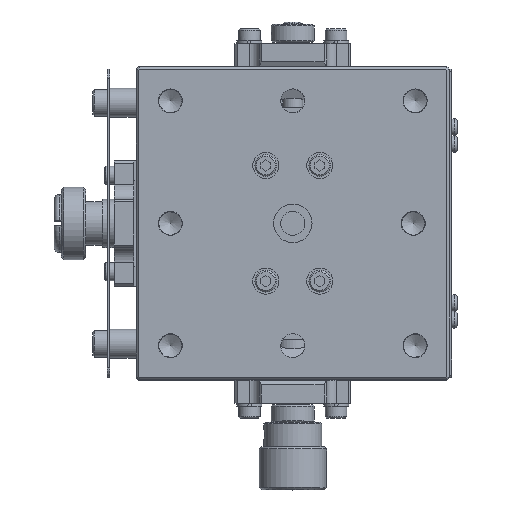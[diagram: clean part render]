
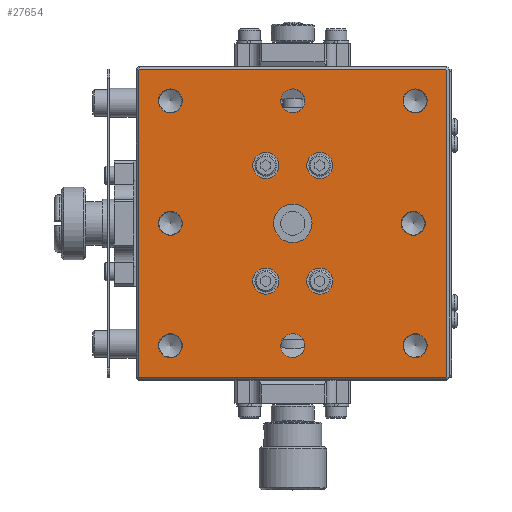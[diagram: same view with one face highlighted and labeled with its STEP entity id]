
A CAD part, top view. The second image highlights one B-rep face of the part: STEP entity #27654.
In plain terms, the highlighted planar face has unit normal (0, 0, 1).
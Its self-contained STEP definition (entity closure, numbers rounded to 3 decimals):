
#27106=CARTESIAN_POINT('',(-32.0,31.793,-50.0));
#27107=VERTEX_POINT('',#27106);
#27108=CARTESIAN_POINT('',(-31.793,32.0,-50.0));
#27109=VERTEX_POINT('',#27108);
#27110=CARTESIAN_POINT('',(-32.0,31.793,-50.0));
#27111=DIRECTION('',(0.707,0.707,0.0));
#27112=VECTOR('',#27111,0.293);
#27113=LINE('',#27110,#27112);
#27114=EDGE_CURVE('',#27107,#27109,#27113,.T.);
#27146=CARTESIAN_POINT('',(-32.0,-31.793,-50.0));
#27147=VERTEX_POINT('',#27146);
#27148=CARTESIAN_POINT('',(-32.0,-31.793,-50.0));
#27149=DIRECTION('',(0.0,1.0,0.0));
#27150=VECTOR('',#27149,63.586);
#27151=LINE('',#27148,#27150);
#27152=EDGE_CURVE('',#27147,#27107,#27151,.T.);
#27196=CARTESIAN_POINT('',(31.793,32.0,-50.0));
#27197=VERTEX_POINT('',#27196);
#27198=CARTESIAN_POINT('',(-31.793,32.0,-50.0));
#27199=DIRECTION('',(1.0,0.0,0.0));
#27200=VECTOR('',#27199,63.586);
#27201=LINE('',#27198,#27200);
#27202=EDGE_CURVE('',#27109,#27197,#27201,.T.);
#27218=CARTESIAN_POINT('',(31.793,-32.,-50.0));
#27219=VERTEX_POINT('',#27218);
#27220=CARTESIAN_POINT('',(-31.793,-32.0,-50.0));
#27221=VERTEX_POINT('',#27220);
#27222=CARTESIAN_POINT('',(31.793,-32.,-50.0));
#27223=DIRECTION('',(-1.0,0.0,0.0));
#27224=VECTOR('',#27223,63.586);
#27225=LINE('',#27222,#27224);
#27226=EDGE_CURVE('',#27219,#27221,#27225,.T.);
#27256=CARTESIAN_POINT('',(32.0,31.793,-50.0));
#27257=VERTEX_POINT('',#27256);
#27258=CARTESIAN_POINT('',(32.,-31.793,-50.0));
#27259=VERTEX_POINT('',#27258);
#27260=CARTESIAN_POINT('',(32.0,31.793,-50.0));
#27261=DIRECTION('',(0.0,-1.0,0.0));
#27262=VECTOR('',#27261,63.586);
#27263=LINE('',#27260,#27262);
#27264=EDGE_CURVE('',#27257,#27259,#27263,.T.);
#27289=CARTESIAN_POINT('',(32.,-31.793,-50.0));
#27290=DIRECTION('',(-0.707,-0.707,0.0));
#27291=VECTOR('',#27290,0.293);
#27292=LINE('',#27289,#27291);
#27293=EDGE_CURVE('',#27259,#27219,#27292,.T.);
#27311=CARTESIAN_POINT('',(31.793,32.0,-50.0));
#27312=DIRECTION('',(0.707,-0.707,0.0));
#27313=VECTOR('',#27312,0.293);
#27314=LINE('',#27311,#27313);
#27315=EDGE_CURVE('',#27197,#27257,#27314,.T.);
#27328=CARTESIAN_POINT('',(-31.793,-32.0,-50.0));
#27329=DIRECTION('',(-0.707,0.707,0.0));
#27330=VECTOR('',#27329,0.293);
#27331=LINE('',#27328,#27330);
#27332=EDGE_CURVE('',#27221,#27147,#27331,.T.);
#27496=CARTESIAN_POINT('',(32.5,-32.5,-50.0));
#27497=DIRECTION('',(0.0,0.0,-1.0));
#27498=DIRECTION('',(-1.0,0.0,0.0));
#27499=AXIS2_PLACEMENT_3D('',#27496,#27497,#27498);
#27500=PLANE('',#27499);
#27501=ORIENTED_EDGE('',*,*,#27264,.F.);
#27502=ORIENTED_EDGE('',*,*,#27315,.F.);
#27503=ORIENTED_EDGE('',*,*,#27202,.F.);
#27504=ORIENTED_EDGE('',*,*,#27114,.F.);
#27505=ORIENTED_EDGE('',*,*,#27152,.F.);
#27506=ORIENTED_EDGE('',*,*,#27332,.F.);
#27507=ORIENTED_EDGE('',*,*,#27226,.F.);
#27508=ORIENTED_EDGE('',*,*,#27293,.F.);
#27509=EDGE_LOOP('',(#27501,#27502,#27503,#27504,#27505,#27506,#27507,#27508));
#27510=FACE_OUTER_BOUND('',#27509,.T.);
#27511=CARTESIAN_POINT('',(-2.9,-12.,-50.0));
#27512=VERTEX_POINT('',#27511);
#27513=CARTESIAN_POINT('',(-5.6,-12.,-50.0));
#27514=DIRECTION('',(0.0,0.0,-1.0));
#27515=DIRECTION('',(1.0,0.0,0.0));
#27516=AXIS2_PLACEMENT_3D('',#27513,#27514,#27515);
#27517=CIRCLE('',#27516,2.7);
#27518=EDGE_CURVE('',#27512,#27512,#27517,.T.);
#27519=ORIENTED_EDGE('',*,*,#27518,.T.);
#27520=EDGE_LOOP('',(#27519));
#27521=FACE_BOUND('',#27520,.T.);
#27522=CARTESIAN_POINT('',(8.3,-12.,-50.0));
#27523=VERTEX_POINT('',#27522);
#27524=CARTESIAN_POINT('',(5.6,-12.,-50.0));
#27525=DIRECTION('',(0.0,0.0,-1.0));
#27526=DIRECTION('',(1.0,0.0,0.0));
#27527=AXIS2_PLACEMENT_3D('',#27524,#27525,#27526);
#27528=CIRCLE('',#27527,2.7);
#27529=EDGE_CURVE('',#27523,#27523,#27528,.T.);
#27530=ORIENTED_EDGE('',*,*,#27529,.T.);
#27531=EDGE_LOOP('',(#27530));
#27532=FACE_BOUND('',#27531,.T.);
#27533=CARTESIAN_POINT('',(-2.9,12.,-50.0));
#27534=VERTEX_POINT('',#27533);
#27535=CARTESIAN_POINT('',(-5.6,12.,-50.0));
#27536=DIRECTION('',(0.0,0.0,-1.0));
#27537=DIRECTION('',(1.0,0.0,0.0));
#27538=AXIS2_PLACEMENT_3D('',#27535,#27536,#27537);
#27539=CIRCLE('',#27538,2.7);
#27540=EDGE_CURVE('',#27534,#27534,#27539,.T.);
#27541=ORIENTED_EDGE('',*,*,#27540,.T.);
#27542=EDGE_LOOP('',(#27541));
#27543=FACE_BOUND('',#27542,.T.);
#27544=CARTESIAN_POINT('',(8.3,12.,-50.0));
#27545=VERTEX_POINT('',#27544);
#27546=CARTESIAN_POINT('',(5.6,12.,-50.0));
#27547=DIRECTION('',(0.0,0.0,-1.0));
#27548=DIRECTION('',(1.0,0.0,0.0));
#27549=AXIS2_PLACEMENT_3D('',#27546,#27547,#27548);
#27550=CIRCLE('',#27549,2.7);
#27551=EDGE_CURVE('',#27545,#27545,#27550,.T.);
#27552=ORIENTED_EDGE('',*,*,#27551,.T.);
#27553=EDGE_LOOP('',(#27552));
#27554=FACE_BOUND('',#27553,.T.);
#27555=CARTESIAN_POINT('',(-22.911,-25.4,-50.0));
#27556=VERTEX_POINT('',#27555);
#27557=CARTESIAN_POINT('',(-25.4,-25.4,-50.0));
#27558=DIRECTION('',(0.0,0.0,-1.0));
#27559=DIRECTION('',(1.0,0.0,0.0));
#27560=AXIS2_PLACEMENT_3D('',#27557,#27558,#27559);
#27561=CIRCLE('',#27560,2.489);
#27562=EDGE_CURVE('',#27556,#27556,#27561,.T.);
#27563=ORIENTED_EDGE('',*,*,#27562,.T.);
#27564=EDGE_LOOP('',(#27563));
#27565=FACE_BOUND('',#27564,.T.);
#27566=CARTESIAN_POINT('',(27.889,-25.4,-50.0));
#27567=VERTEX_POINT('',#27566);
#27568=CARTESIAN_POINT('',(25.4,-25.4,-50.0));
#27569=DIRECTION('',(0.0,0.0,-1.0));
#27570=DIRECTION('',(1.0,0.0,0.0));
#27571=AXIS2_PLACEMENT_3D('',#27568,#27569,#27570);
#27572=CIRCLE('',#27571,2.489);
#27573=EDGE_CURVE('',#27567,#27567,#27572,.T.);
#27574=ORIENTED_EDGE('',*,*,#27573,.T.);
#27575=EDGE_LOOP('',(#27574));
#27576=FACE_BOUND('',#27575,.T.);
#27577=CARTESIAN_POINT('',(-22.911,25.4,-50.0));
#27578=VERTEX_POINT('',#27577);
#27579=CARTESIAN_POINT('',(-25.4,25.4,-50.0));
#27580=DIRECTION('',(0.0,0.0,-1.0));
#27581=DIRECTION('',(1.0,0.0,0.0));
#27582=AXIS2_PLACEMENT_3D('',#27579,#27580,#27581);
#27583=CIRCLE('',#27582,2.489);
#27584=EDGE_CURVE('',#27578,#27578,#27583,.T.);
#27585=ORIENTED_EDGE('',*,*,#27584,.T.);
#27586=EDGE_LOOP('',(#27585));
#27587=FACE_BOUND('',#27586,.T.);
#27588=CARTESIAN_POINT('',(27.889,25.4,-50.0));
#27589=VERTEX_POINT('',#27588);
#27590=CARTESIAN_POINT('',(25.4,25.4,-50.0));
#27591=DIRECTION('',(0.0,0.0,-1.0));
#27592=DIRECTION('',(1.0,0.0,0.0));
#27593=AXIS2_PLACEMENT_3D('',#27590,#27591,#27592);
#27594=CIRCLE('',#27593,2.489);
#27595=EDGE_CURVE('',#27589,#27589,#27594,.T.);
#27596=ORIENTED_EDGE('',*,*,#27595,.T.);
#27597=EDGE_LOOP('',(#27596));
#27598=FACE_BOUND('',#27597,.T.);
#27599=CARTESIAN_POINT('',(-22.911,0.,-50.0));
#27600=VERTEX_POINT('',#27599);
#27601=CARTESIAN_POINT('',(-25.4,0.,-50.0));
#27602=DIRECTION('',(0.0,0.0,-1.0));
#27603=DIRECTION('',(1.0,0.0,0.0));
#27604=AXIS2_PLACEMENT_3D('',#27601,#27602,#27603);
#27605=CIRCLE('',#27604,2.489);
#27606=EDGE_CURVE('',#27600,#27600,#27605,.T.);
#27607=ORIENTED_EDGE('',*,*,#27606,.T.);
#27608=EDGE_LOOP('',(#27607));
#27609=FACE_BOUND('',#27608,.T.);
#27610=CARTESIAN_POINT('',(27.489,0.,-50.0));
#27611=VERTEX_POINT('',#27610);
#27612=CARTESIAN_POINT('',(25.,0.,-50.0));
#27613=DIRECTION('',(0.0,0.0,-1.0));
#27614=DIRECTION('',(1.0,0.0,0.0));
#27615=AXIS2_PLACEMENT_3D('',#27612,#27613,#27614);
#27616=CIRCLE('',#27615,2.489);
#27617=EDGE_CURVE('',#27611,#27611,#27616,.T.);
#27618=ORIENTED_EDGE('',*,*,#27617,.T.);
#27619=EDGE_LOOP('',(#27618));
#27620=FACE_BOUND('',#27619,.T.);
#27621=CARTESIAN_POINT('',(2.489,-25.4,-50.0));
#27622=VERTEX_POINT('',#27621);
#27623=CARTESIAN_POINT('',(0.0,-25.4,-50.0));
#27624=DIRECTION('',(0.0,0.0,-1.0));
#27625=DIRECTION('',(1.0,0.0,0.0));
#27626=AXIS2_PLACEMENT_3D('',#27623,#27624,#27625);
#27627=CIRCLE('',#27626,2.489);
#27628=EDGE_CURVE('',#27622,#27622,#27627,.T.);
#27629=ORIENTED_EDGE('',*,*,#27628,.T.);
#27630=EDGE_LOOP('',(#27629));
#27631=FACE_BOUND('',#27630,.T.);
#27632=CARTESIAN_POINT('',(2.489,25.4,-50.0));
#27633=VERTEX_POINT('',#27632);
#27634=CARTESIAN_POINT('',(0.0,25.4,-50.0));
#27635=DIRECTION('',(0.0,0.0,-1.0));
#27636=DIRECTION('',(1.0,0.0,0.0));
#27637=AXIS2_PLACEMENT_3D('',#27634,#27635,#27636);
#27638=CIRCLE('',#27637,2.489);
#27639=EDGE_CURVE('',#27633,#27633,#27638,.T.);
#27640=ORIENTED_EDGE('',*,*,#27639,.T.);
#27641=EDGE_LOOP('',(#27640));
#27642=FACE_BOUND('',#27641,.T.);
#27643=CARTESIAN_POINT('',(4.0,0.,-50.0));
#27644=VERTEX_POINT('',#27643);
#27645=CARTESIAN_POINT('',(0.0,0.,-50.0));
#27646=DIRECTION('',(0.0,0.0,-1.0));
#27647=DIRECTION('',(-1.0,0.0,0.0));
#27648=AXIS2_PLACEMENT_3D('',#27645,#27646,#27647);
#27649=CIRCLE('',#27648,4.0);
#27650=EDGE_CURVE('',#27644,#27644,#27649,.T.);
#27651=ORIENTED_EDGE('',*,*,#27650,.T.);
#27652=EDGE_LOOP('',(#27651));
#27653=FACE_BOUND('',#27652,.T.);
#27654=ADVANCED_FACE('',(#27510,#27521,#27532,#27543,#27554,#27565,#27576,#27587,#27598,#27609,#27620,#27631,#27642,#27653),#27500,.F.);
